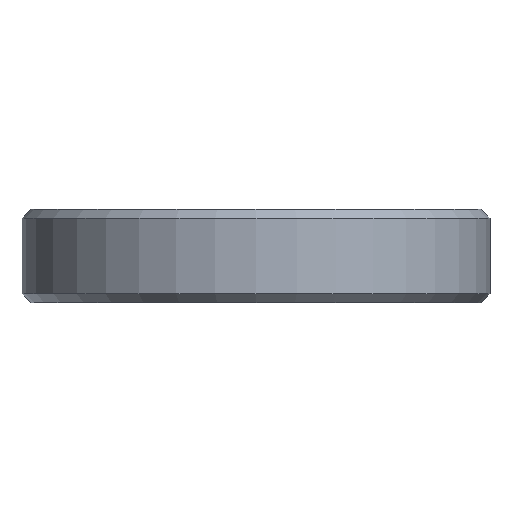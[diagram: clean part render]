
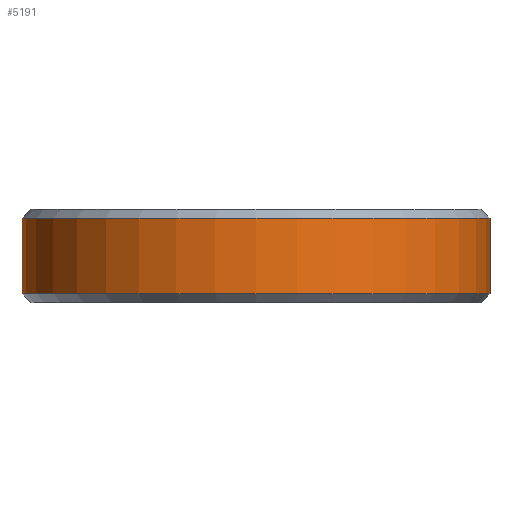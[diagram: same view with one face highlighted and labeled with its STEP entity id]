
A CAD part, front view. The second image highlights one B-rep face of the part: STEP entity #5191.
In plain terms, the highlighted cylindrical face has radius 7.812 mm (diameter 15.625 mm), a full revolution.
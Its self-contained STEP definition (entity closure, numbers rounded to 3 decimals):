
#23=CYLINDRICAL_SURFACE('',#5470,7.813);
#40=CIRCLE('',#5465,7.813);
#44=CIRCLE('',#5471,7.813);
#304=FACE_OUTER_BOUND('',#566,.T.);
#566=EDGE_LOOP('',(#4400,#4401,#4402,#4403));
#1293=LINE('',#8175,#2004);
#2004=VECTOR('',#6698,7.813);
#2480=VERTEX_POINT('',#8158);
#2486=VERTEX_POINT('',#8173);
#3196=EDGE_CURVE('',#2480,#2480,#40,.T.);
#3203=EDGE_CURVE('',#2486,#2486,#44,.T.);
#3204=EDGE_CURVE('',#2486,#2480,#1293,.T.);
#4400=ORIENTED_EDGE('',*,*,#3203,.F.);
#4401=ORIENTED_EDGE('',*,*,#3204,.T.);
#4402=ORIENTED_EDGE('',*,*,#3196,.F.);
#4403=ORIENTED_EDGE('',*,*,#3204,.F.);
#5191=ADVANCED_FACE('',(#304),#23,.T.);
#5465=AXIS2_PLACEMENT_3D('',#8159,#6681,#6682);
#5470=AXIS2_PLACEMENT_3D('',#8172,#6694,#6695);
#5471=AXIS2_PLACEMENT_3D('',#8174,#6696,#6697);
#6681=DIRECTION('center_axis',(0.,0.,-1.));
#6682=DIRECTION('ref_axis',(1.,0.,0.));
#6694=DIRECTION('center_axis',(0.,0.,1.));
#6695=DIRECTION('ref_axis',(1.,0.,0.));
#6696=DIRECTION('center_axis',(0.,0.,1.));
#6697=DIRECTION('ref_axis',(1.,0.,0.));
#6698=DIRECTION('',(0.,0.,-1.));
#8158=CARTESIAN_POINT('',(-7.813,0.,0.3));
#8159=CARTESIAN_POINT('Origin',(0.,0.,0.3));
#8172=CARTESIAN_POINT('Origin',(0.,0.,0.));
#8173=CARTESIAN_POINT('',(-7.813,0.,2.825));
#8174=CARTESIAN_POINT('Origin',(0.,0.,2.825));
#8175=CARTESIAN_POINT('',(-7.813,0.,0.));
